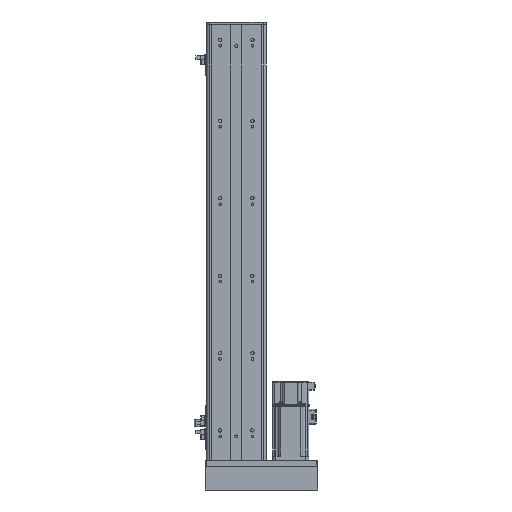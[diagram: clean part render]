
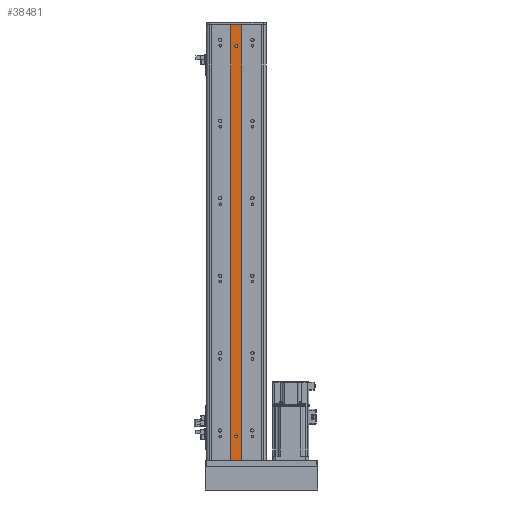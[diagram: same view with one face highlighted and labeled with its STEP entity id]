
A CAD part, front view. The second image highlights one B-rep face of the part: STEP entity #38481.
In plain terms, the highlighted planar face has unit normal (0, -1, 0).
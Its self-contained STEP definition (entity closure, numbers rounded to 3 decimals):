
#625 = FACE_BOUND ( 'NONE', #60323, .T. ) ;
#771 = VERTEX_POINT ( 'NONE', #10400 ) ;
#784 = ORIENTED_EDGE ( 'NONE', *, *, #68537, .F. ) ;
#1489 = EDGE_CURVE ( 'NONE', #57112, #20950, #16372, .T. ) ;
#1885 = EDGE_CURVE ( 'NONE', #771, #19934, #67265, .T. ) ;
#1888 = VERTEX_POINT ( 'NONE', #57320 ) ;
#1945 = CARTESIAN_POINT ( 'NONE',  ( 2.5, 1.309, 826.5 ) ) ;
#2124 = VERTEX_POINT ( 'NONE', #69069 ) ;
#3820 = DIRECTION ( 'NONE',  ( 0., 1., 0. ) ) ;
#5973 = DIRECTION ( 'NONE',  ( 0., 0., 1. ) ) ;
#6651 = AXIS2_PLACEMENT_3D ( 'NONE', #34281, #39631, #7731 ) ;
#7731 = DIRECTION ( 'NONE',  ( 0., 0., 1. ) ) ;
#7895 = EDGE_CURVE ( 'NONE', #20950, #32992, #66101, .T. ) ;
#9001 = CARTESIAN_POINT ( 'NONE',  ( -9., 1.309, 861. ) ) ;
#10281 = VECTOR ( 'NONE', #57735, 1000. ) ;
#10400 = CARTESIAN_POINT ( 'NONE',  ( -9., 1.309, 861. ) ) ;
#12574 = DIRECTION ( 'NONE',  ( 0., 1., 0. ) ) ;
#13728 = ORIENTED_EDGE ( 'NONE', *, *, #1489, .T. ) ;
#15148 = ORIENTED_EDGE ( 'NONE', *, *, #1885, .T. ) ;
#15396 = EDGE_CURVE ( 'NONE', #63250, #28898, #55611, .T. ) ;
#15663 = CARTESIAN_POINT ( 'NONE',  ( 2.5, 1.309, 825.5 ) ) ;
#16082 = DIRECTION ( 'NONE',  ( 0., 0., 1. ) ) ;
#16372 = CIRCLE ( 'NONE', #44241, 2.5 ) ;
#17421 = ORIENTED_EDGE ( 'NONE', *, *, #7895, .T. ) ;
#18317 = ORIENTED_EDGE ( 'NONE', *, *, #60018, .T. ) ;
#18823 = CARTESIAN_POINT ( 'NONE',  ( -2.5, 1.309, 826.5 ) ) ;
#19934 = VERTEX_POINT ( 'NONE', #45901 ) ;
#20459 = AXIS2_PLACEMENT_3D ( 'NONE', #31075, #3820, #68013 ) ;
#20950 = VERTEX_POINT ( 'NONE', #1945 ) ;
#24668 = DIRECTION ( 'NONE',  ( 0., 0., -1. ) ) ;
#24903 = CARTESIAN_POINT ( 'NONE',  ( 9., 1.309, 861. ) ) ;
#25108 = VERTEX_POINT ( 'NONE', #61821 ) ;
#27924 = CARTESIAN_POINT ( 'NONE',  ( 2.5, 1.309, 861. ) ) ;
#28898 = VERTEX_POINT ( 'NONE', #53010 ) ;
#30625 = VECTOR ( 'NONE', #31342, 1000. ) ;
#31075 = CARTESIAN_POINT ( 'NONE',  ( 0., 1.309, 861. ) ) ;
#31342 = DIRECTION ( 'NONE',  ( -1., 0., 0. ) ) ;
#31475 = EDGE_CURVE ( 'NONE', #771, #2124, #52535, .T. ) ;
#32992 = VERTEX_POINT ( 'NONE', #15663 ) ;
#33492 = ORIENTED_EDGE ( 'NONE', *, *, #31475, .F. ) ;
#33632 = DIRECTION ( 'NONE',  ( 1., 0., 0. ) ) ;
#34281 = CARTESIAN_POINT ( 'NONE',  ( 0., 1.309, 825.5 ) ) ;
#34724 = LINE ( 'NONE', #47723, #30625 ) ;
#36901 = LINE ( 'NONE', #63590, #10281 ) ;
#37306 = EDGE_CURVE ( 'NONE', #25108, #19934, #34724, .T. ) ;
#37851 = DIRECTION ( 'NONE',  ( 0., 1., 0. ) ) ;
#38481 = ADVANCED_FACE ( 'NONE', ( #59149, #625, #64075 ), #67783, .F. ) ;
#39631 = DIRECTION ( 'NONE',  ( 0., 1., 0. ) ) ;
#40655 = DIRECTION ( 'NONE',  ( 0., 0., 1. ) ) ;
#42563 = CARTESIAN_POINT ( 'NONE',  ( 0., 1.309, 170. ) ) ;
#43142 = EDGE_CURVE ( 'NONE', #1888, #57112, #36901, .T. ) ;
#44241 = AXIS2_PLACEMENT_3D ( 'NONE', #65331, #12574, #40655 ) ;
#44811 = CIRCLE ( 'NONE', #54250, 2.5 ) ;
#45639 = ORIENTED_EDGE ( 'NONE', *, *, #56546, .T. ) ;
#45901 = CARTESIAN_POINT ( 'NONE',  ( -9., 1.309, 130. ) ) ;
#47600 = LINE ( 'NONE', #24903, #65197 ) ;
#47723 = CARTESIAN_POINT ( 'NONE',  ( 0., 1.309, 130. ) ) ;
#48045 = EDGE_LOOP ( 'NONE', ( #68199, #784, #33492, #15148 ) ) ;
#48076 = DIRECTION ( 'NONE',  ( 0., 1., 0. ) ) ;
#51478 = AXIS2_PLACEMENT_3D ( 'NONE', #42563, #37851, #5973 ) ;
#51920 = CARTESIAN_POINT ( 'NONE',  ( 2.5, 1.309, 170. ) ) ;
#51940 = DIRECTION ( 'NONE',  ( 0., 0., -1. ) ) ;
#52535 = LINE ( 'NONE', #59892, #65185 ) ;
#52685 = VECTOR ( 'NONE', #55045, 1000. ) ;
#53010 = CARTESIAN_POINT ( 'NONE',  ( -2.5, 1.309, 170. ) ) ;
#54250 = AXIS2_PLACEMENT_3D ( 'NONE', #59098, #48076, #16082 ) ;
#55045 = DIRECTION ( 'NONE',  ( 0., 0., -1. ) ) ;
#55611 = CIRCLE ( 'NONE', #51478, 2.5 ) ;
#56546 = EDGE_CURVE ( 'NONE', #32992, #1888, #57785, .T. ) ;
#57112 = VERTEX_POINT ( 'NONE', #18823 ) ;
#57320 = CARTESIAN_POINT ( 'NONE',  ( -2.5, 1.309, 825.5 ) ) ;
#57735 = DIRECTION ( 'NONE',  ( 0., 0., 1. ) ) ;
#57785 = CIRCLE ( 'NONE', #6651, 2.5 ) ;
#58165 = EDGE_LOOP ( 'NONE', ( #61398, #13728, #17421, #45639 ) ) ;
#59098 = CARTESIAN_POINT ( 'NONE',  ( 0., 1.309, 170. ) ) ;
#59149 = FACE_BOUND ( 'NONE', #58165, .T. ) ;
#59892 = CARTESIAN_POINT ( 'NONE',  ( -9., 1.309, 861. ) ) ;
#60018 = EDGE_CURVE ( 'NONE', #28898, #63250, #44811, .T. ) ;
#60323 = EDGE_LOOP ( 'NONE', ( #63443, #18317 ) ) ;
#61398 = ORIENTED_EDGE ( 'NONE', *, *, #43142, .T. ) ;
#61821 = CARTESIAN_POINT ( 'NONE',  ( 9., 1.309, 130. ) ) ;
#63250 = VERTEX_POINT ( 'NONE', #51920 ) ;
#63443 = ORIENTED_EDGE ( 'NONE', *, *, #15396, .T. ) ;
#63590 = CARTESIAN_POINT ( 'NONE',  ( -2.5, 1.309, 861. ) ) ;
#64075 = FACE_OUTER_BOUND ( 'NONE', #48045, .T. ) ;
#65185 = VECTOR ( 'NONE', #33632, 1000. ) ;
#65197 = VECTOR ( 'NONE', #24668, 1000. ) ;
#65331 = CARTESIAN_POINT ( 'NONE',  ( 0., 1.309, 826.5 ) ) ;
#65644 = VECTOR ( 'NONE', #51940, 1000. ) ;
#66101 = LINE ( 'NONE', #27924, #52685 ) ;
#67265 = LINE ( 'NONE', #9001, #65644 ) ;
#67783 = PLANE ( 'NONE',  #20459 ) ;
#68013 = DIRECTION ( 'NONE',  ( 0., 0., 1. ) ) ;
#68199 = ORIENTED_EDGE ( 'NONE', *, *, #37306, .F. ) ;
#68537 = EDGE_CURVE ( 'NONE', #2124, #25108, #47600, .T. ) ;
#69069 = CARTESIAN_POINT ( 'NONE',  ( 9., 1.309, 861. ) ) ;
